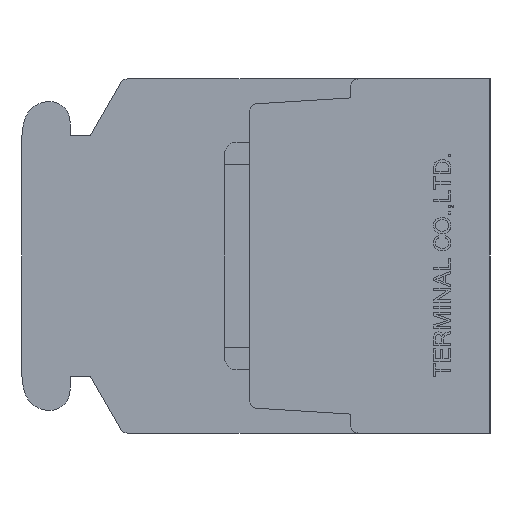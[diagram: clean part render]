
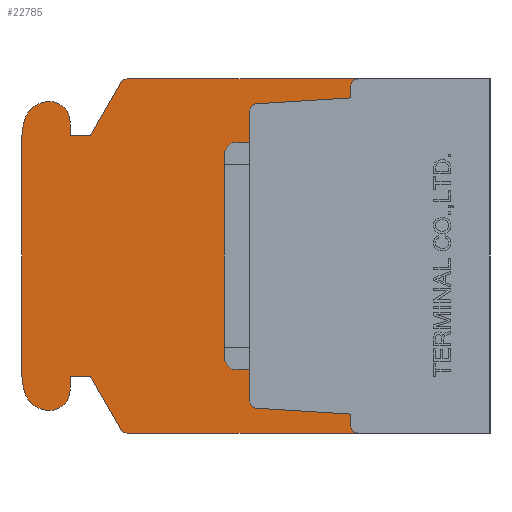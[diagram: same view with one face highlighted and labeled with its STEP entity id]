
A CAD part, left-side view. The second image highlights one B-rep face of the part: STEP entity #22785.
In plain terms, the highlighted planar face has unit normal (-1, 0, 0).
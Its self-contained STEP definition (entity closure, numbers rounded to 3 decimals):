
#447=CIRCLE('',#23218,0.3);
#448=CIRCLE('',#23222,0.3);
#449=CIRCLE('',#23224,0.3);
#450=CIRCLE('',#23228,0.3);
#858=CIRCLE('',#24437,0.3);
#859=CIRCLE('',#24438,0.8);
#860=CIRCLE('',#24439,1.);
#861=CIRCLE('',#24440,2.);
#862=CIRCLE('',#24441,2.);
#863=CIRCLE('',#24442,1.);
#864=CIRCLE('',#24443,0.8);
#865=CIRCLE('',#24444,0.3);
#1256=VERTEX_POINT('',#29677);
#1257=VERTEX_POINT('',#29678);
#1610=VERTEX_POINT('',#31199);
#1611=VERTEX_POINT('',#31203);
#1612=VERTEX_POINT('',#31207);
#1613=VERTEX_POINT('',#31211);
#1614=VERTEX_POINT('',#31215);
#1615=VERTEX_POINT('',#31216);
#1616=VERTEX_POINT('',#31221);
#1617=VERTEX_POINT('',#31225);
#2880=VERTEX_POINT('',#34932);
#2899=VERTEX_POINT('',#35007);
#3139=VERTEX_POINT('',#35847);
#3140=VERTEX_POINT('',#35849);
#3141=VERTEX_POINT('',#35851);
#3142=VERTEX_POINT('',#35853);
#3143=VERTEX_POINT('',#35855);
#3144=VERTEX_POINT('',#35857);
#3145=VERTEX_POINT('',#35859);
#3146=VERTEX_POINT('',#35861);
#3147=VERTEX_POINT('',#35863);
#3148=VERTEX_POINT('',#35865);
#3149=VERTEX_POINT('',#35867);
#3150=VERTEX_POINT('',#35869);
#3151=VERTEX_POINT('',#35871);
#3152=VERTEX_POINT('',#35873);
#3153=VERTEX_POINT('',#35875);
#3154=VERTEX_POINT('',#35877);
#3583=VECTOR('',#24723,1.);
#3992=VECTOR('',#25279,1.);
#3994=VECTOR('',#25282,1.);
#3999=VECTOR('',#25296,1.);
#4001=VECTOR('',#25299,1.);
#5265=VECTOR('',#28069,1.);
#5294=VECTOR('',#28140,1.);
#5611=VECTOR('',#28788,1.);
#5612=VECTOR('',#28789,1.);
#5613=VECTOR('',#28790,1.);
#5614=VECTOR('',#28793,1.);
#5615=VECTOR('',#28798,1.);
#5616=VECTOR('',#28803,1.);
#5617=VECTOR('',#28806,1.);
#5618=VECTOR('',#28807,1.);
#5619=VECTOR('',#28808,1.);
#6120=LINE('',#29676,#3583);
#6529=LINE('',#31202,#3992);
#6531=LINE('',#31206,#3994);
#6536=LINE('',#31220,#3999);
#6538=LINE('',#31224,#4001);
#7802=LINE('',#34933,#5265);
#7831=LINE('',#35006,#5294);
#8148=LINE('',#35848,#5611);
#8149=LINE('',#35850,#5612);
#8150=LINE('',#35852,#5613);
#8151=LINE('',#35856,#5614);
#8152=LINE('',#35862,#5615);
#8153=LINE('',#35868,#5616);
#8154=LINE('',#35872,#5617);
#8155=LINE('',#35874,#5618);
#8156=LINE('',#35876,#5619);
#8657=EDGE_CURVE('',#1256,#1257,#6120,.T.);
#9175=EDGE_CURVE('',#1610,#1256,#447,.T.);
#9177=EDGE_CURVE('',#1611,#1610,#6529,.T.);
#9179=EDGE_CURVE('',#1612,#1611,#6531,.T.);
#9181=EDGE_CURVE('',#1613,#1612,#448,.T.);
#9183=EDGE_CURVE('',#1614,#1615,#449,.T.);
#9186=EDGE_CURVE('',#1616,#1614,#6536,.T.);
#9188=EDGE_CURVE('',#1617,#1616,#6538,.T.);
#9190=EDGE_CURVE('',#1257,#1617,#450,.T.);
#10963=EDGE_CURVE('',#2880,#1615,#7802,.T.);
#11000=EDGE_CURVE('',#1613,#2899,#7831,.T.);
#11471=EDGE_CURVE('',#3139,#2880,#858,.T.);
#11472=EDGE_CURVE('',#3140,#3139,#8148,.T.);
#11473=EDGE_CURVE('',#3141,#3140,#8149,.T.);
#11474=EDGE_CURVE('',#3142,#3141,#8150,.T.);
#11475=EDGE_CURVE('',#3143,#3142,#859,.T.);
#11476=EDGE_CURVE('',#3144,#3143,#8151,.T.);
#11477=EDGE_CURVE('',#3145,#3144,#860,.T.);
#11478=EDGE_CURVE('',#3146,#3145,#861,.T.);
#11479=EDGE_CURVE('',#3147,#3146,#8152,.T.);
#11480=EDGE_CURVE('',#3148,#3147,#862,.T.);
#11481=EDGE_CURVE('',#3149,#3148,#863,.T.);
#11482=EDGE_CURVE('',#3150,#3149,#8153,.T.);
#11483=EDGE_CURVE('',#3151,#3150,#864,.T.);
#11484=EDGE_CURVE('',#3152,#3151,#8154,.T.);
#11485=EDGE_CURVE('',#3153,#3152,#8155,.T.);
#11486=EDGE_CURVE('',#3154,#3153,#8156,.T.);
#11487=EDGE_CURVE('',#2899,#3154,#865,.T.);
#17704=ORIENTED_EDGE('',*,*,#9183,.T.);
#17705=ORIENTED_EDGE('',*,*,#10963,.F.);
#17706=ORIENTED_EDGE('',*,*,#11471,.F.);
#17707=ORIENTED_EDGE('',*,*,#11472,.F.);
#17708=ORIENTED_EDGE('',*,*,#11473,.F.);
#17709=ORIENTED_EDGE('',*,*,#11474,.F.);
#17710=ORIENTED_EDGE('',*,*,#11475,.F.);
#17711=ORIENTED_EDGE('',*,*,#11476,.F.);
#17712=ORIENTED_EDGE('',*,*,#11477,.F.);
#17713=ORIENTED_EDGE('',*,*,#11478,.F.);
#17714=ORIENTED_EDGE('',*,*,#11479,.F.);
#17715=ORIENTED_EDGE('',*,*,#11480,.F.);
#17716=ORIENTED_EDGE('',*,*,#11481,.F.);
#17717=ORIENTED_EDGE('',*,*,#11482,.F.);
#17718=ORIENTED_EDGE('',*,*,#11483,.F.);
#17719=ORIENTED_EDGE('',*,*,#11484,.F.);
#17720=ORIENTED_EDGE('',*,*,#11485,.F.);
#17721=ORIENTED_EDGE('',*,*,#11486,.F.);
#17722=ORIENTED_EDGE('',*,*,#11487,.F.);
#17723=ORIENTED_EDGE('',*,*,#11000,.F.);
#17724=ORIENTED_EDGE('',*,*,#9181,.T.);
#17725=ORIENTED_EDGE('',*,*,#9179,.T.);
#17726=ORIENTED_EDGE('',*,*,#9177,.T.);
#17727=ORIENTED_EDGE('',*,*,#9175,.T.);
#17728=ORIENTED_EDGE('',*,*,#8657,.T.);
#17729=ORIENTED_EDGE('',*,*,#9190,.T.);
#17730=ORIENTED_EDGE('',*,*,#9188,.T.);
#17731=ORIENTED_EDGE('',*,*,#9186,.T.);
#20145=EDGE_LOOP('',(#17704,#17705,#17706,#17707,#17708,#17709,#17710,#17711,
#17712,#17713,#17714,#17715,#17716,#17717,#17718,#17719,#17720,#17721,#17722,
#17723,#17724,#17725,#17726,#17727,#17728,#17729,#17730,#17731));
#21505=FACE_BOUND('',#20145,.T.);
#22785=ADVANCED_FACE('',(#21505),#38369,.F.);
#23218=AXIS2_PLACEMENT_3D('',#31198,#25275,#25276);
#23222=AXIS2_PLACEMENT_3D('',#31210,#25286,#25287);
#23224=AXIS2_PLACEMENT_3D('',#31214,#25291,#25292);
#23228=AXIS2_PLACEMENT_3D('',#31228,#25303,#25304);
#24436=AXIS2_PLACEMENT_3D('',#35845,#28785,$);
#24437=AXIS2_PLACEMENT_3D('',#35846,#28786,#28787);
#24438=AXIS2_PLACEMENT_3D('',#35854,#28791,#28792);
#24439=AXIS2_PLACEMENT_3D('',#35858,#28794,#28795);
#24440=AXIS2_PLACEMENT_3D('',#35860,#28796,#28797);
#24441=AXIS2_PLACEMENT_3D('',#35864,#28799,#28800);
#24442=AXIS2_PLACEMENT_3D('',#35866,#28801,#28802);
#24443=AXIS2_PLACEMENT_3D('',#35870,#28804,#28805);
#24444=AXIS2_PLACEMENT_3D('',#35878,#28809,#28810);
#24723=DIRECTION('',(0.,0.,1.));
#25275=DIRECTION('',(1.,0.,0.));
#25276=DIRECTION('',(0.,0.,-0.3));
#25279=DIRECTION('',(0.,0.998,0.062));
#25282=DIRECTION('',(0.,0.,1.));
#25286=DIRECTION('',(1.,0.,0.));
#25287=DIRECTION('',(0.,0.,-0.3));
#25291=DIRECTION('',(1.,0.,0.));
#25292=DIRECTION('',(0.,0.,-0.3));
#25296=DIRECTION('',(0.,0.,1.));
#25299=DIRECTION('',(0.,-0.998,0.062));
#25303=DIRECTION('',(1.,0.,0.));
#25304=DIRECTION('',(0.,0.,-0.3));
#28069=DIRECTION('',(0.,-1.,0.));
#28140=DIRECTION('',(0.,1.,0.));
#28785=DIRECTION('',(1.,0.,0.));
#28786=DIRECTION('',(1.,0.,0.));
#28787=DIRECTION('',(0.,0.,-0.3));
#28788=DIRECTION('',(0.,-0.5,0.866));
#28789=DIRECTION('',(0.,-1.,0.));
#28790=DIRECTION('',(0.,0.,-1.));
#28791=DIRECTION('',(1.,0.,0.));
#28792=DIRECTION('',(0.,0.,-0.8));
#28793=DIRECTION('',(0.,-1.,0.));
#28794=DIRECTION('',(1.,0.,0.));
#28795=DIRECTION('',(0.,0.,-1.));
#28796=DIRECTION('',(1.,0.,0.));
#28797=DIRECTION('',(0.,0.,-2.));
#28798=DIRECTION('',(0.,0.,1.));
#28799=DIRECTION('',(1.,0.,0.));
#28800=DIRECTION('',(0.,0.,-2.));
#28801=DIRECTION('',(1.,0.,0.));
#28802=DIRECTION('',(0.,0.,-1.));
#28803=DIRECTION('',(0.,1.,0.));
#28804=DIRECTION('',(1.,0.,0.));
#28805=DIRECTION('',(0.,0.,-0.8));
#28806=DIRECTION('',(0.,0.,-1.));
#28807=DIRECTION('',(0.,1.,0.));
#28808=DIRECTION('',(0.,0.5,0.866));
#28809=DIRECTION('',(1.,0.,0.));
#28810=DIRECTION('',(0.,0.,-0.3));
#29676=CARTESIAN_POINT('',(8.15,9.5,0.));
#29677=CARTESIAN_POINT('',(8.15,9.5,-5.718));
#29678=CARTESIAN_POINT('',(8.15,9.5,5.718));
#31198=CARTESIAN_POINT('',(8.15,9.2,-5.718));
#31199=CARTESIAN_POINT('',(8.15,9.219,-6.018));
#31202=CARTESIAN_POINT('',(8.15,8.522,-6.061));
#31203=CARTESIAN_POINT('',(8.15,5.5,-6.25));
#31206=CARTESIAN_POINT('',(8.15,5.5,-3.237));
#31207=CARTESIAN_POINT('',(8.15,5.5,-6.7));
#31210=CARTESIAN_POINT('',(8.15,5.2,-6.7));
#31211=CARTESIAN_POINT('',(8.15,5.2,-7.));
#31214=CARTESIAN_POINT('',(8.15,5.2,6.7));
#31215=CARTESIAN_POINT('',(8.15,5.5,6.7));
#31216=CARTESIAN_POINT('',(8.15,5.2,7.));
#31220=CARTESIAN_POINT('',(8.15,5.5,3.238));
#31221=CARTESIAN_POINT('',(8.15,5.5,6.25));
#31224=CARTESIAN_POINT('',(8.15,8.522,6.061));
#31225=CARTESIAN_POINT('',(8.15,9.219,6.018));
#31228=CARTESIAN_POINT('',(8.15,9.2,5.718));
#34932=CARTESIAN_POINT('',(8.15,14.327,7.));
#34933=CARTESIAN_POINT('',(8.15,14.327,7.));
#35006=CARTESIAN_POINT('',(8.15,0.,-7.));
#35007=CARTESIAN_POINT('',(8.15,14.327,-7.));
#35845=CARTESIAN_POINT('',(8.15,9.311,0.));
#35846=CARTESIAN_POINT('',(8.15,14.327,6.7));
#35847=CARTESIAN_POINT('',(8.15,14.587,6.85));
#35848=CARTESIAN_POINT('',(8.15,15.8,4.75));
#35849=CARTESIAN_POINT('',(8.15,15.8,4.75));
#35850=CARTESIAN_POINT('',(8.15,16.6,4.75));
#35851=CARTESIAN_POINT('',(8.15,16.6,4.75));
#35852=CARTESIAN_POINT('',(8.15,16.6,5.3));
#35853=CARTESIAN_POINT('',(8.15,16.6,5.3));
#35854=CARTESIAN_POINT('',(8.15,17.4,5.3));
#35855=CARTESIAN_POINT('',(8.15,17.4,6.1));
#35856=CARTESIAN_POINT('',(8.15,17.437,6.1));
#35857=CARTESIAN_POINT('',(8.15,17.437,6.1));
#35858=CARTESIAN_POINT('',(8.15,17.437,5.1));
#35859=CARTESIAN_POINT('',(8.15,18.373,5.45));
#35860=CARTESIAN_POINT('',(8.15,16.5,4.75));
#35861=CARTESIAN_POINT('',(8.15,18.5,4.75));
#35862=CARTESIAN_POINT('',(8.15,18.5,-4.75));
#35863=CARTESIAN_POINT('',(8.15,18.5,-4.75));
#35864=CARTESIAN_POINT('',(8.15,16.5,-4.75));
#35865=CARTESIAN_POINT('',(8.15,18.373,-5.45));
#35866=CARTESIAN_POINT('',(8.15,17.437,-5.1));
#35867=CARTESIAN_POINT('',(8.15,17.437,-6.1));
#35868=CARTESIAN_POINT('',(8.15,17.4,-6.1));
#35869=CARTESIAN_POINT('',(8.15,17.4,-6.1));
#35870=CARTESIAN_POINT('',(8.15,17.4,-5.3));
#35871=CARTESIAN_POINT('',(8.15,16.6,-5.3));
#35872=CARTESIAN_POINT('',(8.15,16.6,-4.75));
#35873=CARTESIAN_POINT('',(8.15,16.6,-4.75));
#35874=CARTESIAN_POINT('',(8.15,15.8,-4.75));
#35875=CARTESIAN_POINT('',(8.15,15.8,-4.75));
#35876=CARTESIAN_POINT('',(8.15,14.587,-6.85));
#35877=CARTESIAN_POINT('',(8.15,14.587,-6.85));
#35878=CARTESIAN_POINT('',(8.15,14.327,-6.7));
#38369=PLANE('',#24436);
